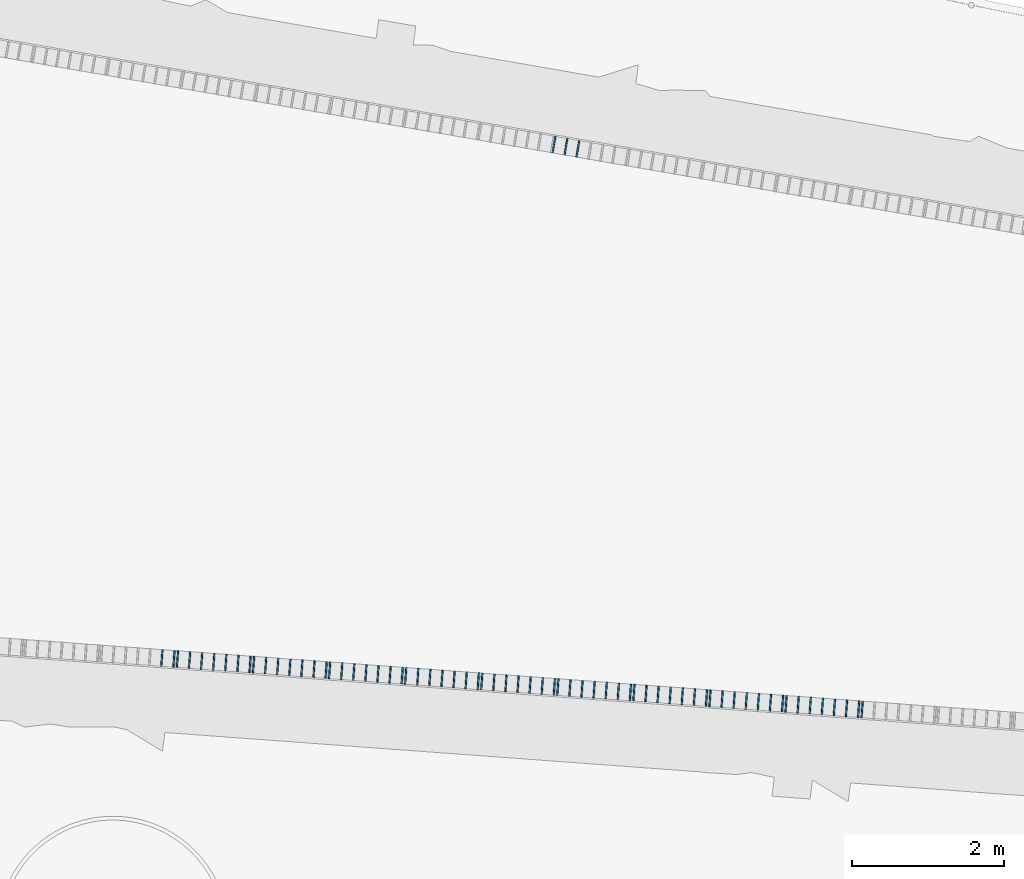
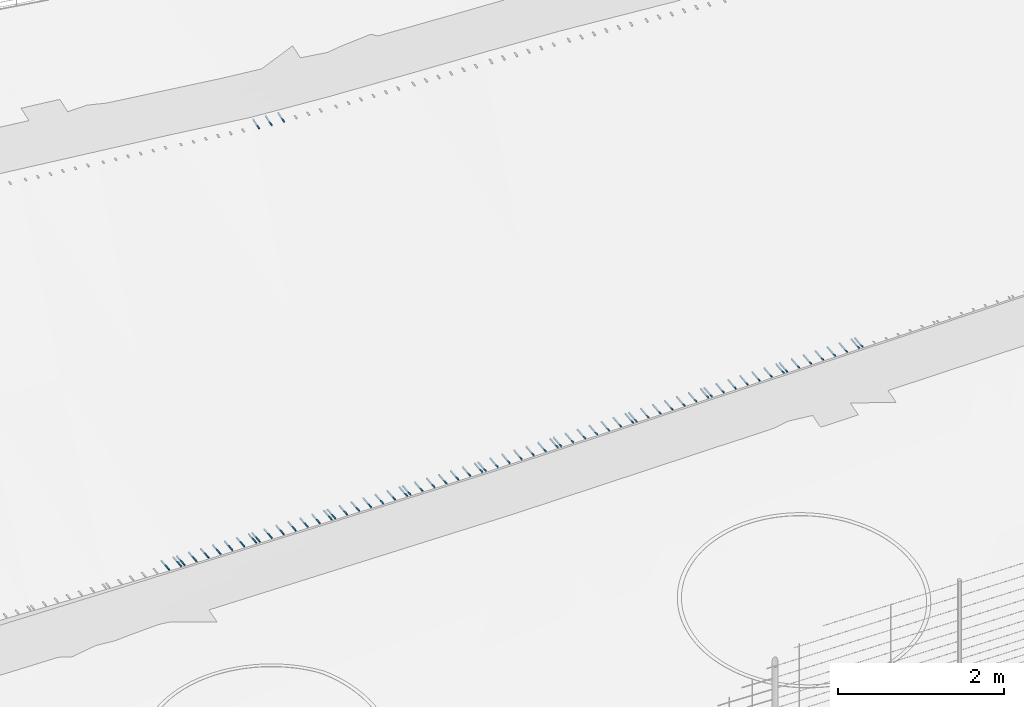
# Not in any storey, part 17 of 72: 69 members.
"""IFC4 model written with IfcOpenShell, lengths in metres."""

from ifc_helpers import new_model, si_unit, direction, frame, origin_with_axes, place, context, subcontext, project, spatial, rectangle, extrude, material, material_profile, profile_set, profile_usage, type_object, element, save


model = new_model("IFC4")

# Units and contexts
model_context = context("Model", 3, precision=1e-05, world=origin_with_axes(), true_north=direction((0.0, 1.0)))
body_context = subcontext(model_context, "Body", "Model", "MODEL_VIEW")
ifc_project = project(units=[si_unit("VOLUMEUNIT", "CUBIC_METRE"), si_unit("LENGTHUNIT", "METRE"), si_unit("AREAUNIT", "SQUARE_METRE")], contexts=[model_context])

# Site
site_placement = place(None, origin_with_axes())
site = spatial("IfcSite", under=ifc_project, at=site_placement, Name="Lares · Rua das Mercês · artigo 4771")

# Members
ifc_material = material(Name="Aço galvanizado / Stahl verzinkt", Category="steel")
ifc_material_profile = material_profile(ifc_material, rectangle(XDim=0.018, YDim=0.018))
ifc_profile_set = profile_set([ifc_material_profile], Name="R0.018")
ifc_profile_usage_1 = profile_usage(ifc_profile_set)
member_type = type_object("IfcMemberType", Name="R0.018 / galvanized", PredefinedType="NOTDEFINED", material=ifc_profile_set)
member_1_placement = place(site_placement, frame((54.5051449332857, 2.64372680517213, 14.5872710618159), z_axis=(0.0733055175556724, 0.997309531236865, 0.0), x_axis=(0.997309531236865, -0.0733055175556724, 0.0)))
element("IfcMember", 1, at=member_1_placement, inside=site, type_object=member_type, material=ifc_profile_usage_1, Name="Acesso · dreno lateral raso · grelha", context=body_context, shape_type="SweptSolid", body=[
    extrude(rectangle(XDim=0.018, YDim=0.018), origin_with_axes(), (0.0, 0.0, 1.0), 0.22),
])
ifc_profile_usage_2 = profile_usage(ifc_profile_set)
member_2_placement = place(site_placement, frame((54.6647144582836, 2.63199792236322, 14.5901631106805), z_axis=(0.0733055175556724, 0.997309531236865, 0.0), x_axis=(0.997309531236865, -0.0733055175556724, 0.0)))
element("IfcMember", 2, at=member_2_placement, inside=site, type_object=member_type, material=ifc_profile_usage_2, Name="Acesso · dreno lateral raso · grelha", context=body_context, shape_type="SweptSolid", body=[
    extrude(rectangle(XDim=0.018, YDim=0.018), origin_with_axes(), (0.0, 0.0, 1.0), 0.22),
])
ifc_profile_usage_3 = profile_usage(ifc_profile_set)
member_3_placement = place(site_placement, frame((54.7114438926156, 2.62856315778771, 14.5915257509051), z_axis=(0.0733054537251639, 0.997309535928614, 0.0), x_axis=(0.997309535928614, -0.0733054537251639, 0.0)))
element("IfcMember", 3, at=member_3_placement, inside=site, type_object=member_type, material=ifc_profile_usage_3, Name="Acesso · dreno lateral raso · grelha", context=body_context, shape_type="SweptSolid", body=[
    extrude(rectangle(XDim=0.018, YDim=0.018), origin_with_axes(), (0.0, 0.0, 1.0), 0.22),
])
ifc_profile_usage_4 = profile_usage(ifc_profile_set)
member_4_placement = place(site_placement, frame((54.8710134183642, 2.61683428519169, 14.597168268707), z_axis=(0.0733054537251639, 0.997309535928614, 0.0), x_axis=(0.997309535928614, -0.0733054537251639, 0.0)))
element("IfcMember", 4, at=member_4_placement, inside=site, type_object=member_type, material=ifc_profile_usage_4, Name="Acesso · dreno lateral raso · grelha", context=body_context, shape_type="SweptSolid", body=[
    extrude(rectangle(XDim=0.018, YDim=0.018), origin_with_axes(), (0.0, 0.0, 1.0), 0.22),
])
ifc_profile_usage_5 = profile_usage(ifc_profile_set)
member_5_placement = place(site_placement, frame((55.0305829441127, 2.60510541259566, 14.6028107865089), z_axis=(0.0733054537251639, 0.997309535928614, 0.0), x_axis=(0.997309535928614, -0.0733054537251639, 0.0)))
element("IfcMember", 5, at=member_5_placement, inside=site, type_object=member_type, material=ifc_profile_usage_5, Name="Acesso · dreno lateral raso · grelha", context=body_context, shape_type="SweptSolid", body=[
    extrude(rectangle(XDim=0.018, YDim=0.018), origin_with_axes(), (0.0, 0.0, 1.0), 0.22),
])
ifc_profile_usage_6 = profile_usage(ifc_profile_set)
member_6_placement = place(site_placement, frame((55.1901524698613, 2.59337653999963, 14.6084533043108), z_axis=(0.0733054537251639, 0.997309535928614, 0.0), x_axis=(0.997309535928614, -0.0733054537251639, 0.0)))
element("IfcMember", 6, at=member_6_placement, inside=site, type_object=member_type, material=ifc_profile_usage_6, Name="Acesso · dreno lateral raso · grelha", context=body_context, shape_type="SweptSolid", body=[
    extrude(rectangle(XDim=0.018, YDim=0.018), origin_with_axes(), (0.0, 0.0, 1.0), 0.22),
])
ifc_profile_usage_7 = profile_usage(ifc_profile_set)
member_7_placement = place(site_placement, frame((55.3497219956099, 2.58164766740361, 14.6140958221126), z_axis=(0.0733054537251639, 0.997309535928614, 0.0), x_axis=(0.997309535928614, -0.0733054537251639, 0.0)))
element("IfcMember", 7, at=member_7_placement, inside=site, type_object=member_type, material=ifc_profile_usage_7, Name="Acesso · dreno lateral raso · grelha", context=body_context, shape_type="SweptSolid", body=[
    extrude(rectangle(XDim=0.018, YDim=0.018), origin_with_axes(), (0.0, 0.0, 1.0), 0.22),
])
ifc_profile_usage_8 = profile_usage(ifc_profile_set)
member_8_placement = place(site_placement, frame((55.5092915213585, 2.56991879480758, 14.6197383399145), z_axis=(0.0733054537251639, 0.997309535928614, 0.0), x_axis=(0.997309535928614, -0.0733054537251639, 0.0)))
element("IfcMember", 8, at=member_8_placement, inside=site, type_object=member_type, material=ifc_profile_usage_8, Name="Acesso · dreno lateral raso · grelha", context=body_context, shape_type="SweptSolid", body=[
    extrude(rectangle(XDim=0.018, YDim=0.018), origin_with_axes(), (0.0, 0.0, 1.0), 0.22),
])
ifc_profile_usage_9 = profile_usage(ifc_profile_set)
member_9_placement = place(site_placement, frame((55.6688610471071, 2.55818992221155, 14.6253808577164), z_axis=(0.0733054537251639, 0.997309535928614, 0.0), x_axis=(0.997309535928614, -0.0733054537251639, 0.0)))
element("IfcMember", 9, at=member_9_placement, inside=site, type_object=member_type, material=ifc_profile_usage_9, Name="Acesso · dreno lateral raso · grelha", context=body_context, shape_type="SweptSolid", body=[
    extrude(rectangle(XDim=0.018, YDim=0.018), origin_with_axes(), (0.0, 0.0, 1.0), 0.22),
])
ifc_profile_usage_10 = profile_usage(ifc_profile_set)
member_10_placement = place(site_placement, frame((55.7155862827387, 2.55475546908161, 14.6270331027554), z_axis=(0.0733053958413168, 0.997309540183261, 0.0), x_axis=(0.997309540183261, -0.0733053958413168, 0.0)))
element("IfcMember", 10, at=member_10_placement, inside=site, type_object=member_type, material=ifc_profile_usage_10, Name="Acesso · dreno lateral raso · grelha", context=body_context, shape_type="SweptSolid", body=[
    extrude(rectangle(XDim=0.018, YDim=0.018), origin_with_axes(), (0.0, 0.0, 1.0), 0.219999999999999),
])
ifc_profile_usage_11 = profile_usage(ifc_profile_set)
member_11_placement = place(site_placement, frame((55.875155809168, 2.543026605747, 14.6326756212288), z_axis=(0.0733053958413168, 0.997309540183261, 0.0), x_axis=(0.997309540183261, -0.0733053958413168, 0.0)))
element("IfcMember", 11, at=member_11_placement, inside=site, type_object=member_type, material=ifc_profile_usage_11, Name="Acesso · dreno lateral raso · grelha", context=body_context, shape_type="SweptSolid", body=[
    extrude(rectangle(XDim=0.018, YDim=0.018), origin_with_axes(), (0.0, 0.0, 1.0), 0.219999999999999),
])
ifc_profile_usage_12 = profile_usage(ifc_profile_set)
member_12_placement = place(site_placement, frame((56.0347253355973, 2.53129774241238, 14.6383181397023), z_axis=(0.0733053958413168, 0.997309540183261, 0.0), x_axis=(0.997309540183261, -0.0733053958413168, 0.0)))
element("IfcMember", 12, at=member_12_placement, inside=site, type_object=member_type, material=ifc_profile_usage_12, Name="Acesso · dreno lateral raso · grelha", context=body_context, shape_type="SweptSolid", body=[
    extrude(rectangle(XDim=0.018, YDim=0.018), origin_with_axes(), (0.0, 0.0, 1.0), 0.219999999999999),
])
ifc_profile_usage_13 = profile_usage(ifc_profile_set)
member_13_placement = place(site_placement, frame((56.1942948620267, 2.51956887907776, 14.6439606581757), z_axis=(0.0733053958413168, 0.997309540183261, 0.0), x_axis=(0.997309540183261, -0.0733053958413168, 0.0)))
element("IfcMember", 13, at=member_13_placement, inside=site, type_object=member_type, material=ifc_profile_usage_13, Name="Acesso · dreno lateral raso · grelha", context=body_context, shape_type="SweptSolid", body=[
    extrude(rectangle(XDim=0.018, YDim=0.018), origin_with_axes(), (0.0, 0.0, 1.0), 0.219999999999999),
])
ifc_profile_usage_14 = profile_usage(ifc_profile_set)
member_14_placement = place(site_placement, frame((56.353864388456, 2.50784001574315, 14.6496031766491), z_axis=(0.0733053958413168, 0.997309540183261, 0.0), x_axis=(0.997309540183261, -0.0733053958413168, 0.0)))
element("IfcMember", 14, at=member_14_placement, inside=site, type_object=member_type, material=ifc_profile_usage_14, Name="Acesso · dreno lateral raso · grelha", context=body_context, shape_type="SweptSolid", body=[
    extrude(rectangle(XDim=0.018, YDim=0.018), origin_with_axes(), (0.0, 0.0, 1.0), 0.219999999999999),
])
ifc_profile_usage_15 = profile_usage(ifc_profile_set)
member_15_placement = place(site_placement, frame((56.5134339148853, 2.49611115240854, 14.6552456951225), z_axis=(0.0733053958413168, 0.997309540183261, 0.0), x_axis=(0.997309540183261, -0.0733053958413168, 0.0)))
element("IfcMember", 15, at=member_15_placement, inside=site, type_object=member_type, material=ifc_profile_usage_15, Name="Acesso · dreno lateral raso · grelha", context=body_context, shape_type="SweptSolid", body=[
    extrude(rectangle(XDim=0.018, YDim=0.018), origin_with_axes(), (0.0, 0.0, 1.0), 0.219999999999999),
])
ifc_profile_usage_16 = profile_usage(ifc_profile_set)
member_16_placement = place(site_placement, frame((56.6730034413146, 2.48438228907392, 14.660888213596), z_axis=(0.0733053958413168, 0.997309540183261, 0.0), x_axis=(0.997309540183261, -0.0733053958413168, 0.0)))
element("IfcMember", 16, at=member_16_placement, inside=site, type_object=member_type, material=ifc_profile_usage_16, Name="Acesso · dreno lateral raso · grelha", context=body_context, shape_type="SweptSolid", body=[
    extrude(rectangle(XDim=0.018, YDim=0.018), origin_with_axes(), (0.0, 0.0, 1.0), 0.219999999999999),
])
ifc_profile_usage_17 = profile_usage(ifc_profile_set)
member_17_placement = place(site_placement, frame((56.719724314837, 2.48094815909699, 14.6626719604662), z_axis=(0.0733053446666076, 0.997309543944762, 0.0), x_axis=(0.997309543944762, -0.0733053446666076, 0.0)))
element("IfcMember", 17, at=member_17_placement, inside=site, type_object=member_type, material=ifc_profile_usage_17, Name="Acesso · dreno lateral raso · grelha", context=body_context, shape_type="SweptSolid", body=[
    extrude(rectangle(XDim=0.018, YDim=0.018), origin_with_axes(), (0.0, 0.0, 1.0), 0.22),
])
ifc_profile_usage_18 = profile_usage(ifc_profile_set)
member_18_placement = place(site_placement, frame((56.8792938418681, 2.46921930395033, 14.669016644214), z_axis=(0.0733053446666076, 0.997309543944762, 0.0), x_axis=(0.997309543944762, -0.0733053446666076, 0.0)))
element("IfcMember", 18, at=member_18_placement, inside=site, type_object=member_type, material=ifc_profile_usage_18, Name="Acesso · dreno lateral raso · grelha", context=body_context, shape_type="SweptSolid", body=[
    extrude(rectangle(XDim=0.018, YDim=0.018), origin_with_axes(), (0.0, 0.0, 1.0), 0.22),
])
ifc_profile_usage_19 = profile_usage(ifc_profile_set)
member_19_placement = place(site_placement, frame((57.0388633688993, 2.45749044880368, 14.6753613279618), z_axis=(0.0733053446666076, 0.997309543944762, 0.0), x_axis=(0.997309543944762, -0.0733053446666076, 0.0)))
element("IfcMember", 19, at=member_19_placement, inside=site, type_object=member_type, material=ifc_profile_usage_19, Name="Acesso · dreno lateral raso · grelha", context=body_context, shape_type="SweptSolid", body=[
    extrude(rectangle(XDim=0.018, YDim=0.018), origin_with_axes(), (0.0, 0.0, 1.0), 0.22),
])
ifc_profile_usage_20 = profile_usage(ifc_profile_set)
member_20_placement = place(site_placement, frame((57.1984328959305, 2.44576159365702, 14.6817060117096), z_axis=(0.0733053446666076, 0.997309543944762, 0.0), x_axis=(0.997309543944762, -0.0733053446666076, 0.0)))
element("IfcMember", 20, at=member_20_placement, inside=site, type_object=member_type, material=ifc_profile_usage_20, Name="Acesso · dreno lateral raso · grelha", context=body_context, shape_type="SweptSolid", body=[
    extrude(rectangle(XDim=0.018, YDim=0.018), origin_with_axes(), (0.0, 0.0, 1.0), 0.22),
])
ifc_profile_usage_21 = profile_usage(ifc_profile_set)
member_21_placement = place(site_placement, frame((57.3580024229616, 2.43403273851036, 14.6880506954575), z_axis=(0.0733053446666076, 0.997309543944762, 0.0), x_axis=(0.997309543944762, -0.0733053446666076, 0.0)))
element("IfcMember", 21, at=member_21_placement, inside=site, type_object=member_type, material=ifc_profile_usage_21, Name="Acesso · dreno lateral raso · grelha", context=body_context, shape_type="SweptSolid", body=[
    extrude(rectangle(XDim=0.018, YDim=0.018), origin_with_axes(), (0.0, 0.0, 1.0), 0.22),
])
ifc_profile_usage_22 = profile_usage(ifc_profile_set)
member_22_placement = place(site_placement, frame((57.5175719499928, 2.42230388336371, 14.6943953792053), z_axis=(0.0733053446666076, 0.997309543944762, 0.0), x_axis=(0.997309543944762, -0.0733053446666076, 0.0)))
element("IfcMember", 22, at=member_22_placement, inside=site, type_object=member_type, material=ifc_profile_usage_22, Name="Acesso · dreno lateral raso · grelha", context=body_context, shape_type="SweptSolid", body=[
    extrude(rectangle(XDim=0.018, YDim=0.018), origin_with_axes(), (0.0, 0.0, 1.0), 0.22),
])
ifc_profile_usage_23 = profile_usage(ifc_profile_set)
member_23_placement = place(site_placement, frame((57.677141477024, 2.41057502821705, 14.7007400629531), z_axis=(0.0733053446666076, 0.997309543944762, 0.0), x_axis=(0.997309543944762, -0.0733053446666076, 0.0)))
element("IfcMember", 23, at=member_23_placement, inside=site, type_object=member_type, material=ifc_profile_usage_23, Name="Acesso · dreno lateral raso · grelha", context=body_context, shape_type="SweptSolid", body=[
    extrude(rectangle(XDim=0.018, YDim=0.018), origin_with_axes(), (0.0, 0.0, 1.0), 0.22),
])
ifc_profile_usage_24 = profile_usage(ifc_profile_set)
member_24_placement = place(site_placement, frame((57.7238578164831, 2.40714123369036, 14.702646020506), z_axis=(0.0733053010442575, 0.997309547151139, 0.0), x_axis=(0.997309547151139, -0.0733053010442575, 0.0)))
element("IfcMember", 24, at=member_24_placement, inside=site, type_object=member_type, material=ifc_profile_usage_24, Name="Acesso · dreno lateral raso · grelha", context=body_context, shape_type="SweptSolid", body=[
    extrude(rectangle(XDim=0.018, YDim=0.018), origin_with_axes(), (0.0, 0.0, 1.0), 0.22),
])
ifc_profile_usage_25 = profile_usage(ifc_profile_set)
member_25_placement = place(site_placement, frame((57.8834273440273, 2.39541238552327, 14.7092491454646), z_axis=(0.0733053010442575, 0.997309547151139, 0.0), x_axis=(0.997309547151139, -0.0733053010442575, 0.0)))
element("IfcMember", 25, at=member_25_placement, inside=site, type_object=member_type, material=ifc_profile_usage_25, Name="Acesso · dreno lateral raso · grelha", context=body_context, shape_type="SweptSolid", body=[
    extrude(rectangle(XDim=0.018, YDim=0.018), origin_with_axes(), (0.0, 0.0, 1.0), 0.22),
])
ifc_profile_usage_26 = profile_usage(ifc_profile_set)
member_26_placement = place(site_placement, frame((58.0429968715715, 2.38368353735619, 14.7158522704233), z_axis=(0.0733053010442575, 0.997309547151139, 0.0), x_axis=(0.997309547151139, -0.0733053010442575, 0.0)))
element("IfcMember", 26, at=member_26_placement, inside=site, type_object=member_type, material=ifc_profile_usage_26, Name="Acesso · dreno lateral raso · grelha", context=body_context, shape_type="SweptSolid", body=[
    extrude(rectangle(XDim=0.018, YDim=0.018), origin_with_axes(), (0.0, 0.0, 1.0), 0.22),
])
ifc_profile_usage_27 = profile_usage(ifc_profile_set)
member_27_placement = place(site_placement, frame((58.2025663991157, 2.3719546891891, 14.722455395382), z_axis=(0.0733053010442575, 0.997309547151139, 0.0), x_axis=(0.997309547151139, -0.0733053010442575, 0.0)))
element("IfcMember", 27, at=member_27_placement, inside=site, type_object=member_type, material=ifc_profile_usage_27, Name="Acesso · dreno lateral raso · grelha", context=body_context, shape_type="SweptSolid", body=[
    extrude(rectangle(XDim=0.018, YDim=0.018), origin_with_axes(), (0.0, 0.0, 1.0), 0.22),
])
ifc_profile_usage_28 = profile_usage(ifc_profile_set)
member_28_placement = place(site_placement, frame((58.3621359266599, 2.36022584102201, 14.7290585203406), z_axis=(0.0733053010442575, 0.997309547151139, 0.0), x_axis=(0.997309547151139, -0.0733053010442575, 0.0)))
element("IfcMember", 28, at=member_28_placement, inside=site, type_object=member_type, material=ifc_profile_usage_28, Name="Acesso · dreno lateral raso · grelha", context=body_context, shape_type="SweptSolid", body=[
    extrude(rectangle(XDim=0.018, YDim=0.018), origin_with_axes(), (0.0, 0.0, 1.0), 0.22),
])
ifc_profile_usage_29 = profile_usage(ifc_profile_set)
member_29_placement = place(site_placement, frame((58.521705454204, 2.34849699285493, 14.7356616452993), z_axis=(0.0733053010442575, 0.997309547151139, 0.0), x_axis=(0.997309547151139, -0.0733053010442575, 0.0)))
element("IfcMember", 29, at=member_29_placement, inside=site, type_object=member_type, material=ifc_profile_usage_29, Name="Acesso · dreno lateral raso · grelha", context=body_context, shape_type="SweptSolid", body=[
    extrude(rectangle(XDim=0.018, YDim=0.018), origin_with_axes(), (0.0, 0.0, 1.0), 0.22),
])
ifc_profile_usage_30 = profile_usage(ifc_profile_set)
member_30_placement = place(site_placement, frame((58.6812749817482, 2.33676814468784, 14.742264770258), z_axis=(0.0733053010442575, 0.997309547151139, 0.0), x_axis=(0.997309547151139, -0.0733053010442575, 0.0)))
element("IfcMember", 30, at=member_30_placement, inside=site, type_object=member_type, material=ifc_profile_usage_30, Name="Acesso · dreno lateral raso · grelha", context=body_context, shape_type="SweptSolid", body=[
    extrude(rectangle(XDim=0.018, YDim=0.018), origin_with_axes(), (0.0, 0.0, 1.0), 0.22),
])
ifc_profile_usage_31 = profile_usage(ifc_profile_set)
member_31_placement = place(site_placement, frame((58.7279866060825, 2.33333469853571, 14.7446644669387), z_axis=(0.0733052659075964, 0.997309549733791, 0.0), x_axis=(0.997309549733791, -0.0733052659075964, 0.0)))
element("IfcMember", 31, at=member_31_placement, inside=site, type_object=member_type, material=ifc_profile_usage_31, Name="Acesso · dreno lateral raso · grelha", context=body_context, shape_type="SweptSolid", body=[
    extrude(rectangle(XDim=0.018, YDim=0.018), origin_with_axes(), (0.0, 0.0, 1.0), 0.22),
])
ifc_profile_usage_32 = profile_usage(ifc_profile_set)
member_32_placement = place(site_placement, frame((58.8875561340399, 2.3216058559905, 14.753756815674), z_axis=(0.0733052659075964, 0.997309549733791, 0.0), x_axis=(0.997309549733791, -0.0733052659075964, 0.0)))
element("IfcMember", 32, at=member_32_placement, inside=site, type_object=member_type, material=ifc_profile_usage_32, Name="Acesso · dreno lateral raso · grelha", context=body_context, shape_type="SweptSolid", body=[
    extrude(rectangle(XDim=0.018, YDim=0.018), origin_with_axes(), (0.0, 0.0, 1.0), 0.22),
])
ifc_profile_usage_33 = profile_usage(ifc_profile_set)
member_33_placement = place(site_placement, frame((59.0471256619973, 2.30987701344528, 14.7628491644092), z_axis=(0.0733052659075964, 0.997309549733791, 0.0), x_axis=(0.997309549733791, -0.0733052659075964, 0.0)))
element("IfcMember", 33, at=member_33_placement, inside=site, type_object=member_type, material=ifc_profile_usage_33, Name="Acesso · dreno lateral raso · grelha", context=body_context, shape_type="SweptSolid", body=[
    extrude(rectangle(XDim=0.018, YDim=0.018), origin_with_axes(), (0.0, 0.0, 1.0), 0.22),
])
ifc_profile_usage_34 = profile_usage(ifc_profile_set)
member_34_placement = place(site_placement, frame((59.2066951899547, 2.29814817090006, 14.7719415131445), z_axis=(0.0733052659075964, 0.997309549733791, 0.0), x_axis=(0.997309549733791, -0.0733052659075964, 0.0)))
element("IfcMember", 34, at=member_34_placement, inside=site, type_object=member_type, material=ifc_profile_usage_34, Name="Acesso · dreno lateral raso · grelha", context=body_context, shape_type="SweptSolid", body=[
    extrude(rectangle(XDim=0.018, YDim=0.018), origin_with_axes(), (0.0, 0.0, 1.0), 0.22),
])
ifc_profile_usage_35 = profile_usage(ifc_profile_set)
member_35_placement = place(site_placement, frame((59.3662647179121, 2.28641932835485, 14.7810338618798), z_axis=(0.0733052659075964, 0.997309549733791, 0.0), x_axis=(0.997309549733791, -0.0733052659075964, 0.0)))
element("IfcMember", 35, at=member_35_placement, inside=site, type_object=member_type, material=ifc_profile_usage_35, Name="Acesso · dreno lateral raso · grelha", context=body_context, shape_type="SweptSolid", body=[
    extrude(rectangle(XDim=0.018, YDim=0.018), origin_with_axes(), (0.0, 0.0, 1.0), 0.22),
])
ifc_profile_usage_36 = profile_usage(ifc_profile_set)
member_36_placement = place(site_placement, frame((59.5258342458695, 2.27469048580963, 14.7901262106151), z_axis=(0.0733052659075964, 0.997309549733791, 0.0), x_axis=(0.997309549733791, -0.0733052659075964, 0.0)))
element("IfcMember", 36, at=member_36_placement, inside=site, type_object=member_type, material=ifc_profile_usage_36, Name="Acesso · dreno lateral raso · grelha", context=body_context, shape_type="SweptSolid", body=[
    extrude(rectangle(XDim=0.018, YDim=0.018), origin_with_axes(), (0.0, 0.0, 1.0), 0.22),
])
ifc_profile_usage_37 = profile_usage(ifc_profile_set)
member_37_placement = place(site_placement, frame((59.6854037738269, 2.26296164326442, 14.7992185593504), z_axis=(0.0733052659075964, 0.997309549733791, 0.0), x_axis=(0.997309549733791, -0.0733052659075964, 0.0)))
element("IfcMember", 37, at=member_37_placement, inside=site, type_object=member_type, material=ifc_profile_usage_37, Name="Acesso · dreno lateral raso · grelha", context=body_context, shape_type="SweptSolid", body=[
    extrude(rectangle(XDim=0.018, YDim=0.018), origin_with_axes(), (0.0, 0.0, 1.0), 0.22),
])
ifc_profile_usage_38 = profile_usage(ifc_profile_set)
member_38_placement = place(site_placement, frame((59.7321104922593, 2.25952855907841, 14.8019125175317), z_axis=(0.073305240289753, 0.997309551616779, 0.0), x_axis=(0.997309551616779, -0.073305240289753, 0.0)))
element("IfcMember", 38, at=member_38_placement, inside=site, type_object=member_type, material=ifc_profile_usage_38, Name="Acesso · dreno lateral raso · grelha", context=body_context, shape_type="SweptSolid", body=[
    extrude(rectangle(XDim=0.018, YDim=0.018), origin_with_axes(), (0.0, 0.0, 1.0), 0.22),
])
ifc_profile_usage_39 = profile_usage(ifc_profile_set)
member_39_placement = place(site_placement, frame((59.891680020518, 2.24779972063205, 14.8111786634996), z_axis=(0.073305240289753, 0.997309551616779, 0.0), x_axis=(0.997309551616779, -0.073305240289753, 0.0)))
element("IfcMember", 39, at=member_39_placement, inside=site, type_object=member_type, material=ifc_profile_usage_39, Name="Acesso · dreno lateral raso · grelha", context=body_context, shape_type="SweptSolid", body=[
    extrude(rectangle(XDim=0.018, YDim=0.018), origin_with_axes(), (0.0, 0.0, 1.0), 0.22),
])
ifc_profile_usage_40 = profile_usage(ifc_profile_set)
member_40_placement = place(site_placement, frame((60.0512495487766, 2.23607088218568, 14.8204448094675), z_axis=(0.073305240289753, 0.997309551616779, 0.0), x_axis=(0.997309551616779, -0.073305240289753, 0.0)))
element("IfcMember", 40, at=member_40_placement, inside=site, type_object=member_type, material=ifc_profile_usage_40, Name="Acesso · dreno lateral raso · grelha", context=body_context, shape_type="SweptSolid", body=[
    extrude(rectangle(XDim=0.018, YDim=0.018), origin_with_axes(), (0.0, 0.0, 1.0), 0.22),
])
ifc_profile_usage_41 = profile_usage(ifc_profile_set)
member_41_placement = place(site_placement, frame((60.2108190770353, 2.22434204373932, 14.8297109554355), z_axis=(0.073305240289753, 0.997309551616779, 0.0), x_axis=(0.997309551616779, -0.073305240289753, 0.0)))
element("IfcMember", 41, at=member_41_placement, inside=site, type_object=member_type, material=ifc_profile_usage_41, Name="Acesso · dreno lateral raso · grelha", context=body_context, shape_type="SweptSolid", body=[
    extrude(rectangle(XDim=0.018, YDim=0.018), origin_with_axes(), (0.0, 0.0, 1.0), 0.22),
])
ifc_profile_usage_42 = profile_usage(ifc_profile_set)
member_42_placement = place(site_placement, frame((60.370388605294, 2.21261320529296, 14.8389771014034), z_axis=(0.073305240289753, 0.997309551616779, 0.0), x_axis=(0.997309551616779, -0.073305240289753, 0.0)))
element("IfcMember", 42, at=member_42_placement, inside=site, type_object=member_type, material=ifc_profile_usage_42, Name="Acesso · dreno lateral raso · grelha", context=body_context, shape_type="SweptSolid", body=[
    extrude(rectangle(XDim=0.018, YDim=0.018), origin_with_axes(), (0.0, 0.0, 1.0), 0.22),
])
ifc_profile_usage_43 = profile_usage(ifc_profile_set)
member_43_placement = place(site_placement, frame((60.5299581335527, 2.2008843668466, 14.8482432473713), z_axis=(0.073305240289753, 0.997309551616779, 0.0), x_axis=(0.997309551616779, -0.073305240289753, 0.0)))
element("IfcMember", 43, at=member_43_placement, inside=site, type_object=member_type, material=ifc_profile_usage_43, Name="Acesso · dreno lateral raso · grelha", context=body_context, shape_type="SweptSolid", body=[
    extrude(rectangle(XDim=0.018, YDim=0.018), origin_with_axes(), (0.0, 0.0, 1.0), 0.22),
])
ifc_profile_usage_44 = profile_usage(ifc_profile_set)
member_44_placement = place(site_placement, frame((60.6895276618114, 2.18915552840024, 14.8575093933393), z_axis=(0.073305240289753, 0.997309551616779, 0.0), x_axis=(0.997309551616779, -0.073305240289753, 0.0)))
element("IfcMember", 44, at=member_44_placement, inside=site, type_object=member_type, material=ifc_profile_usage_44, Name="Acesso · dreno lateral raso · grelha", context=body_context, shape_type="SweptSolid", body=[
    extrude(rectangle(XDim=0.018, YDim=0.018), origin_with_axes(), (0.0, 0.0, 1.0), 0.22),
])
ifc_profile_usage_45 = profile_usage(ifc_profile_set)
member_45_placement = place(site_placement, frame((60.7362292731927, 2.18572282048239, 14.8602213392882), z_axis=(0.0733052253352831, 0.997309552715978, 0.0), x_axis=(0.997309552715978, -0.0733052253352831, 0.0)))
element("IfcMember", 45, at=member_45_placement, inside=site, type_object=member_type, material=ifc_profile_usage_45, Name="Acesso · dreno lateral raso · grelha", context=body_context, shape_type="SweptSolid", body=[
    extrude(rectangle(XDim=0.018, YDim=0.018), origin_with_axes(), (0.0, 0.0, 1.0), 0.22),
])
ifc_profile_usage_46 = profile_usage(ifc_profile_set)
member_46_placement = place(site_placement, frame((60.8957988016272, 2.17399398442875, 14.8694874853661), z_axis=(0.0733052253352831, 0.997309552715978, 0.0), x_axis=(0.997309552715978, -0.0733052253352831, 0.0)))
element("IfcMember", 46, at=member_46_placement, inside=site, type_object=member_type, material=ifc_profile_usage_46, Name="Acesso · dreno lateral raso · grelha", context=body_context, shape_type="SweptSolid", body=[
    extrude(rectangle(XDim=0.018, YDim=0.018), origin_with_axes(), (0.0, 0.0, 1.0), 0.22),
])
ifc_profile_usage_47 = profile_usage(ifc_profile_set)
member_47_placement = place(site_placement, frame((61.0553683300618, 2.1622651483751, 14.878753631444), z_axis=(0.0733052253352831, 0.997309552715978, 0.0), x_axis=(0.997309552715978, -0.0733052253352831, 0.0)))
element("IfcMember", 47, at=member_47_placement, inside=site, type_object=member_type, material=ifc_profile_usage_47, Name="Acesso · dreno lateral raso · grelha", context=body_context, shape_type="SweptSolid", body=[
    extrude(rectangle(XDim=0.018, YDim=0.018), origin_with_axes(), (0.0, 0.0, 1.0), 0.22),
])
ifc_profile_usage_48 = profile_usage(ifc_profile_set)
member_48_placement = place(site_placement, frame((61.2149378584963, 2.15053631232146, 14.888019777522), z_axis=(0.0733052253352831, 0.997309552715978, 0.0), x_axis=(0.997309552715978, -0.0733052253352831, 0.0)))
element("IfcMember", 48, at=member_48_placement, inside=site, type_object=member_type, material=ifc_profile_usage_48, Name="Acesso · dreno lateral raso · grelha", context=body_context, shape_type="SweptSolid", body=[
    extrude(rectangle(XDim=0.018, YDim=0.018), origin_with_axes(), (0.0, 0.0, 1.0), 0.22),
])
ifc_profile_usage_49 = profile_usage(ifc_profile_set)
member_49_placement = place(site_placement, frame((61.3745073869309, 2.13880747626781, 14.8972859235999), z_axis=(0.0733052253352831, 0.997309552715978, 0.0), x_axis=(0.997309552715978, -0.0733052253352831, 0.0)))
element("IfcMember", 49, at=member_49_placement, inside=site, type_object=member_type, material=ifc_profile_usage_49, Name="Acesso · dreno lateral raso · grelha", context=body_context, shape_type="SweptSolid", body=[
    extrude(rectangle(XDim=0.018, YDim=0.018), origin_with_axes(), (0.0, 0.0, 1.0), 0.22),
])
ifc_profile_usage_50 = profile_usage(ifc_profile_set)
member_50_placement = place(site_placement, frame((61.5340769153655, 2.12707864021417, 14.9065520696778), z_axis=(0.0733052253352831, 0.997309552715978, 0.0), x_axis=(0.997309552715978, -0.0733052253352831, 0.0)))
element("IfcMember", 50, at=member_50_placement, inside=site, type_object=member_type, material=ifc_profile_usage_50, Name="Acesso · dreno lateral raso · grelha", context=body_context, shape_type="SweptSolid", body=[
    extrude(rectangle(XDim=0.018, YDim=0.018), origin_with_axes(), (0.0, 0.0, 1.0), 0.22),
])
ifc_profile_usage_51 = profile_usage(ifc_profile_set)
member_51_placement = place(site_placement, frame((61.6936464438, 2.11534980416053, 14.9158182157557), z_axis=(0.0733052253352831, 0.997309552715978, 0.0), x_axis=(0.997309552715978, -0.0733052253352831, 0.0)))
element("IfcMember", 51, at=member_51_placement, inside=site, type_object=member_type, material=ifc_profile_usage_51, Name="Acesso · dreno lateral raso · grelha", context=body_context, shape_type="SweptSolid", body=[
    extrude(rectangle(XDim=0.018, YDim=0.018), origin_with_axes(), (0.0, 0.0, 1.0), 0.22),
])
ifc_profile_usage_52 = profile_usage(ifc_profile_set)
member_52_placement = place(site_placement, frame((61.7403427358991, 2.11191748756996, 14.9185298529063), z_axis=(0.0733052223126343, 0.997309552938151, 0.0), x_axis=(0.997309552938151, -0.0733052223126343, 0.0)))
element("IfcMember", 52, at=member_52_placement, inside=site, type_object=member_type, material=ifc_profile_usage_52, Name="Acesso · dreno lateral raso · grelha", context=body_context, shape_type="SweptSolid", body=[
    extrude(rectangle(XDim=0.018, YDim=0.018), origin_with_axes(), (0.0, 0.0, 1.0), 0.22),
])
ifc_profile_usage_53 = profile_usage(ifc_profile_set)
member_53_placement = place(site_placement, frame((61.8999122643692, 2.10018865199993, 14.9277959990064), z_axis=(0.0733052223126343, 0.997309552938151, 0.0), x_axis=(0.997309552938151, -0.0733052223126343, 0.0)))
element("IfcMember", 53, at=member_53_placement, inside=site, type_object=member_type, material=ifc_profile_usage_53, Name="Acesso · dreno lateral raso · grelha", context=body_context, shape_type="SweptSolid", body=[
    extrude(rectangle(XDim=0.018, YDim=0.018), origin_with_axes(), (0.0, 0.0, 1.0), 0.22),
])
ifc_profile_usage_54 = profile_usage(ifc_profile_set)
member_54_placement = place(site_placement, frame((62.0594817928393, 2.08845981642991, 14.9370621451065), z_axis=(0.0733052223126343, 0.997309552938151, 0.0), x_axis=(0.997309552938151, -0.0733052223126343, 0.0)))
element("IfcMember", 54, at=member_54_placement, inside=site, type_object=member_type, material=ifc_profile_usage_54, Name="Acesso · dreno lateral raso · grelha", context=body_context, shape_type="SweptSolid", body=[
    extrude(rectangle(XDim=0.018, YDim=0.018), origin_with_axes(), (0.0, 0.0, 1.0), 0.22),
])
ifc_profile_usage_55 = profile_usage(ifc_profile_set)
member_55_placement = place(site_placement, frame((62.2190513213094, 2.07673098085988, 14.9463282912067), z_axis=(0.0733052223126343, 0.997309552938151, 0.0), x_axis=(0.997309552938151, -0.0733052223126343, 0.0)))
element("IfcMember", 55, at=member_55_placement, inside=site, type_object=member_type, material=ifc_profile_usage_55, Name="Acesso · dreno lateral raso · grelha", context=body_context, shape_type="SweptSolid", body=[
    extrude(rectangle(XDim=0.018, YDim=0.018), origin_with_axes(), (0.0, 0.0, 1.0), 0.22),
])
ifc_profile_usage_56 = profile_usage(ifc_profile_set)
member_56_placement = place(site_placement, frame((62.3786208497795, 2.06500214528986, 14.9555944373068), z_axis=(0.0733052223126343, 0.997309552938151, 0.0), x_axis=(0.997309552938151, -0.0733052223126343, 0.0)))
element("IfcMember", 56, at=member_56_placement, inside=site, type_object=member_type, material=ifc_profile_usage_56, Name="Acesso · dreno lateral raso · grelha", context=body_context, shape_type="SweptSolid", body=[
    extrude(rectangle(XDim=0.018, YDim=0.018), origin_with_axes(), (0.0, 0.0, 1.0), 0.22),
])
ifc_profile_usage_57 = profile_usage(ifc_profile_set)
member_57_placement = place(site_placement, frame((62.5381903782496, 2.05327330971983, 14.9648605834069), z_axis=(0.0733052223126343, 0.997309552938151, 0.0), x_axis=(0.997309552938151, -0.0733052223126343, 0.0)))
element("IfcMember", 57, at=member_57_placement, inside=site, type_object=member_type, material=ifc_profile_usage_57, Name="Acesso · dreno lateral raso · grelha", context=body_context, shape_type="SweptSolid", body=[
    extrude(rectangle(XDim=0.018, YDim=0.018), origin_with_axes(), (0.0, 0.0, 1.0), 0.22),
])
ifc_profile_usage_58 = profile_usage(ifc_profile_set)
member_58_placement = place(site_placement, frame((62.6977599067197, 2.04154447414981, 14.9741267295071), z_axis=(0.0733052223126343, 0.997309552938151, 0.0), x_axis=(0.997309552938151, -0.0733052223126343, 0.0)))
element("IfcMember", 58, at=member_58_placement, inside=site, type_object=member_type, material=ifc_profile_usage_58, Name="Acesso · dreno lateral raso · grelha", context=body_context, shape_type="SweptSolid", body=[
    extrude(rectangle(XDim=0.018, YDim=0.018), origin_with_axes(), (0.0, 0.0, 1.0), 0.22),
])
ifc_profile_usage_59 = profile_usage(ifc_profile_set)
member_59_placement = place(site_placement, frame((62.7444506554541, 2.03811256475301, 14.9768380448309), z_axis=(0.0733052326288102, 0.997309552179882, 0.0), x_axis=(0.997309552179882, -0.0733052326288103, 0.0)))
element("IfcMember", 59, at=member_59_placement, inside=site, type_object=member_type, material=ifc_profile_usage_59, Name="Acesso · dreno lateral raso · grelha", context=body_context, shape_type="SweptSolid", body=[
    extrude(rectangle(XDim=0.018, YDim=0.018), origin_with_axes(), (0.0, 0.0, 1.0), 0.220000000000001),
])
ifc_profile_usage_60 = profile_usage(ifc_profile_set)
member_60_placement = place(site_placement, frame((62.9040201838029, 2.02638372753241, 14.9861041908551), z_axis=(0.0733052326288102, 0.997309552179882, 0.0), x_axis=(0.997309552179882, -0.0733052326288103, 0.0)))
element("IfcMember", 60, at=member_60_placement, inside=site, type_object=member_type, material=ifc_profile_usage_60, Name="Acesso · dreno lateral raso · grelha", context=body_context, shape_type="SweptSolid", body=[
    extrude(rectangle(XDim=0.018, YDim=0.018), origin_with_axes(), (0.0, 0.0, 1.0), 0.220000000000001),
])
ifc_profile_usage_61 = profile_usage(ifc_profile_set)
member_61_placement = place(site_placement, frame((63.0635897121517, 2.0146548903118, 14.9953703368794), z_axis=(0.0733052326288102, 0.997309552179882, 0.0), x_axis=(0.997309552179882, -0.0733052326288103, 0.0)))
element("IfcMember", 61, at=member_61_placement, inside=site, type_object=member_type, material=ifc_profile_usage_61, Name="Acesso · dreno lateral raso · grelha", context=body_context, shape_type="SweptSolid", body=[
    extrude(rectangle(XDim=0.018, YDim=0.018), origin_with_axes(), (0.0, 0.0, 1.0), 0.220000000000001),
])
ifc_profile_usage_62 = profile_usage(ifc_profile_set)
member_62_placement = place(site_placement, frame((63.2231592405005, 2.00292605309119, 15.0046364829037), z_axis=(0.0733052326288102, 0.997309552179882, 0.0), x_axis=(0.997309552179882, -0.0733052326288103, 0.0)))
element("IfcMember", 62, at=member_62_placement, inside=site, type_object=member_type, material=ifc_profile_usage_62, Name="Acesso · dreno lateral raso · grelha", context=body_context, shape_type="SweptSolid", body=[
    extrude(rectangle(XDim=0.018, YDim=0.018), origin_with_axes(), (0.0, 0.0, 1.0), 0.220000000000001),
])
ifc_profile_usage_63 = profile_usage(ifc_profile_set)
member_63_placement = place(site_placement, frame((63.3827287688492, 1.99119721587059, 15.0139026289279), z_axis=(0.0733052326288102, 0.997309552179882, 0.0), x_axis=(0.997309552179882, -0.0733052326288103, 0.0)))
element("IfcMember", 63, at=member_63_placement, inside=site, type_object=member_type, material=ifc_profile_usage_63, Name="Acesso · dreno lateral raso · grelha", context=body_context, shape_type="SweptSolid", body=[
    extrude(rectangle(XDim=0.018, YDim=0.018), origin_with_axes(), (0.0, 0.0, 1.0), 0.220000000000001),
])
ifc_profile_usage_64 = profile_usage(ifc_profile_set)
member_64_placement = place(site_placement, frame((63.542298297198, 1.97946837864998, 15.0231687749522), z_axis=(0.0733052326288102, 0.997309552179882, 0.0), x_axis=(0.997309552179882, -0.0733052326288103, 0.0)))
element("IfcMember", 64, at=member_64_placement, inside=site, type_object=member_type, material=ifc_profile_usage_64, Name="Acesso · dreno lateral raso · grelha", context=body_context, shape_type="SweptSolid", body=[
    extrude(rectangle(XDim=0.018, YDim=0.018), origin_with_axes(), (0.0, 0.0, 1.0), 0.220000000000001),
])
ifc_profile_usage_65 = profile_usage(ifc_profile_set)
member_65_placement = place(site_placement, frame((63.7018678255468, 1.96773954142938, 15.0324349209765), z_axis=(0.0733052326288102, 0.997309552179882, 0.0), x_axis=(0.997309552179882, -0.0733052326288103, 0.0)))
element("IfcMember", 65, at=member_65_placement, inside=site, type_object=member_type, material=ifc_profile_usage_65, Name="Acesso · dreno lateral raso · grelha", context=body_context, shape_type="SweptSolid", body=[
    extrude(rectangle(XDim=0.018, YDim=0.018), origin_with_axes(), (0.0, 0.0, 1.0), 0.220000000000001),
])
ifc_profile_usage_66 = profile_usage(ifc_profile_set)
member_66_placement = place(site_placement, frame((63.7485527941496, 1.96430805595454, 15.0351459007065), z_axis=(0.0733052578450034, 0.997309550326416, 0.0), x_axis=(0.997309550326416, -0.0733052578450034, 0.0)))
element("IfcMember", 66, at=member_66_placement, inside=site, type_object=member_type, material=ifc_profile_usage_66, Name="Acesso · dreno lateral raso · grelha", context=body_context, shape_type="SweptSolid", body=[
    extrude(rectangle(XDim=0.018, YDim=0.018), origin_with_axes(), (0.0, 0.0, 1.0), 0.22),
])
ifc_profile_usage_67 = profile_usage(ifc_profile_set)
member_67_placement = place(site_placement, frame((59.670379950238, 9.42113327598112, 15.1473775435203), z_axis=(0.171145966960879, 0.98524568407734, 0.0), x_axis=(0.98524568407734, -0.171145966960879, 0.0)))
element("IfcMember", 67, at=member_67_placement, inside=site, type_object=member_type, material=ifc_profile_usage_67, Name="Acesso · dreno lateral raso · grelha", context=body_context, shape_type="SweptSolid", body=[
    extrude(rectangle(XDim=0.018, YDim=0.018), origin_with_axes(), (0.0, 0.0, 1.0), 0.220000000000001),
])
ifc_profile_usage_68 = profile_usage(ifc_profile_set)
member_68_placement = place(site_placement, frame((59.8280192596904, 9.39374992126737, 15.1573663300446), z_axis=(0.171145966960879, 0.98524568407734, 0.0), x_axis=(0.98524568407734, -0.171145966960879, 0.0)))
element("IfcMember", 68, at=member_68_placement, inside=site, type_object=member_type, material=ifc_profile_usage_68, Name="Acesso · dreno lateral raso · grelha", context=body_context, shape_type="SweptSolid", body=[
    extrude(rectangle(XDim=0.018, YDim=0.018), origin_with_axes(), (0.0, 0.0, 1.0), 0.220000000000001),
])
ifc_profile_usage_69 = profile_usage(ifc_profile_set)
member_69_placement = place(site_placement, frame((59.9856585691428, 9.36636656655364, 15.167355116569), z_axis=(0.171145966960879, 0.98524568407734, 0.0), x_axis=(0.98524568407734, -0.171145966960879, 0.0)))
element("IfcMember", 69, at=member_69_placement, inside=site, type_object=member_type, material=ifc_profile_usage_69, Name="Acesso · dreno lateral raso · grelha", context=body_context, shape_type="SweptSolid", body=[
    extrude(rectangle(XDim=0.018, YDim=0.018), origin_with_axes(), (0.0, 0.0, 1.0), 0.220000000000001),
])

save(model, "model.ifc")
